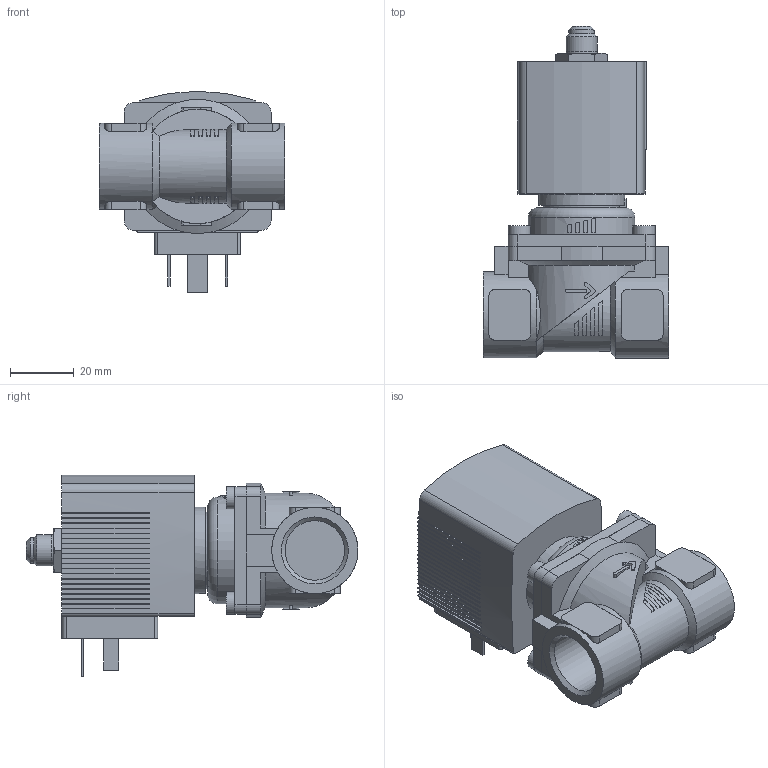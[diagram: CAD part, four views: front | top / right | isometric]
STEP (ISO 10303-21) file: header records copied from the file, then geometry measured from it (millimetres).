
FILE_DESCRIPTION(/* description */ ('STEP AP214'),/* implementation_level */ '2;1');
FILE_NAME(/* name */ '6281-338198-2_2-Way_Solenoid_Valve__Servo-assisted__General_Purpose',/* time_stamp */ '2024-05-14T17:25:59+02:00',/* author */ ('License CC BY-ND 4.0'),/* organization */ ('CADENAS'),/* preprocessor_version */ 'ST-DEVELOPER v19.3',/* originating_system */ 'PARTsolutions',/* authorisation */ ' ');
FILE_SCHEMA (('AUTOMOTIVE_DESIGN {1 0 10303 214 3 1 1}'));
Length unit declared in the file: millimetre
Products named in the file (4): 6281-338198-2/2-Way Solenoid Valve, Servo-assisted, General Purpose; 5281ev130MS2/2-Wege-Magnetventil mit Servomembran-Deckel  MX62 ; 6213-13G1/2MS-Gehaeuse-kurz; AC10ex-6OO-Gewinde-Coil
Assembly tree (3 placements, depth 2):
  6281-338198-2/2-Way Solenoid Valve, Servo-assisted, General Purpose
    5281ev130MS2/2-Wege-Magnetventil mit Servomembran-Deckel  MX62 
    6213-13G1/2MS-Gehaeuse-kurz
    AC10ex-6OO-Gewinde-Coil
Bounding box: 58 x 103.9 x 63 mm (x, y, z)
Volume: 131638.5 mm3; surface area: 30589.9 mm2
Topology: 3 solids, 3 shells, 519 faces, 1416 edges, 933 vertices
Faces by surface type: plane 419, cylinder 82, cone 17, torus 1
Full cylindrical faces by diameter (mm): 2.013 x1, 2.7 x1, 7 x4, 8 x1, 9.73 x1, 9.74 x1, 18.631 x2, 27 x2, 33.4 x1
Entity records: 18780 total; most frequent: CARTESIAN_POINT 3062, ORIENTED_EDGE 2768, DIRECTION 2682, EDGE_CURVE 1384, LINE 1008, VECTOR 1008, VERTEX_POINT 922, AXIS2_PLACEMENT_3D 837
